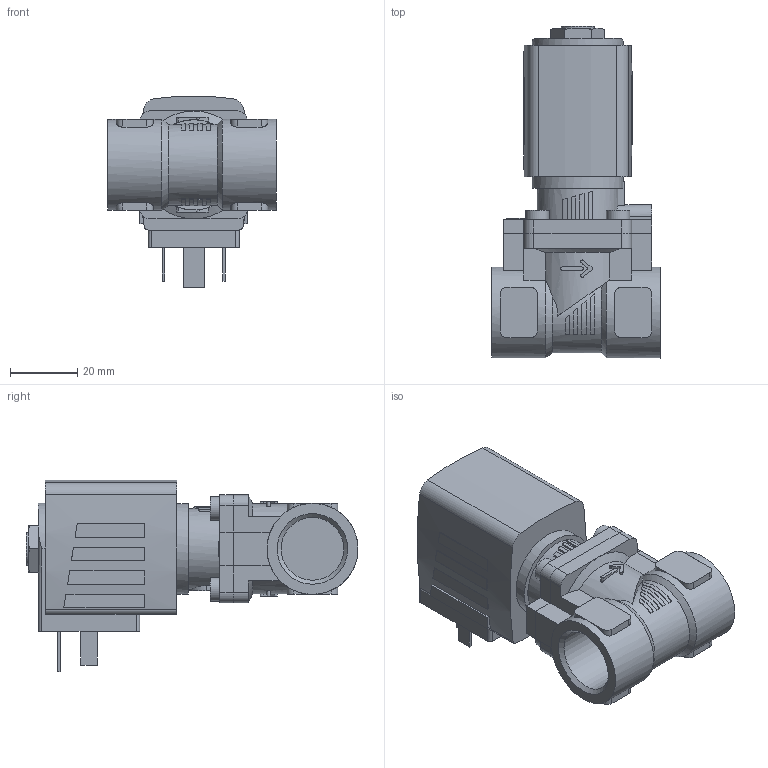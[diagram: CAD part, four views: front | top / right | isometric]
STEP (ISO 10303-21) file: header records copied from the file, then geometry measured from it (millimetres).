
FILE_DESCRIPTION(/* description */ ('STEP AP214'),/* implementation_level */ '2;1');
FILE_NAME(/* name */ '6281-338129-2_2-Way_Solenoid_Valve__Servo-assisted__General_Purpose',/* time_stamp */ '2024-05-14T16:41:41+02:00',/* author */ ('License CC BY-ND 4.0'),/* organization */ ('CADENAS'),/* preprocessor_version */ 'ST-DEVELOPER v19.3',/* originating_system */ 'PARTsolutions',/* authorisation */ ' ');
FILE_SCHEMA (('AUTOMOTIVE_DESIGN {1 0 10303 214 3 1 1}'));
Length unit declared in the file: millimetre
Products named in the file (4): 6281-338129-2/2-Way Solenoid Valve, Servo-assisted, General Purpose; 5281ev100MS2/2-Wege-Magnetventil mit Servomembran-Deckel   ; 6213-10G1/2MS-Gehaeuse-; AC10ex-5NA38-Plan-Coil
Assembly tree (3 placements, depth 2):
  6281-338129-2/2-Way Solenoid Valve, Servo-assisted, General Purpose
    5281ev100MS2/2-Wege-Magnetventil mit Servomembran-Deckel   
    6213-10G1/2MS-Gehaeuse-
    AC10ex-5NA38-Plan-Coil
Bounding box: 50 x 98.5 x 56.91 mm (x, y, z)
Volume: 94403.7 mm3; surface area: 23816.9 mm2
Topology: 3 solids, 3 shells, 321 faces, 818 edges, 540 vertices
Faces by surface type: plane 226, cylinder 82, cone 13
Full cylindrical faces by diameter (mm): 2.013 x1, 7 x4, 9.74 x1, 18.631 x2, 27 x3
Entity records: 10905 total; most frequent: CARTESIAN_POINT 1888, DIRECTION 1626, ORIENTED_EDGE 1590, EDGE_CURVE 795, AXIS2_PLACEMENT_3D 567, VERTEX_POINT 532, LINE 492, VECTOR 492
